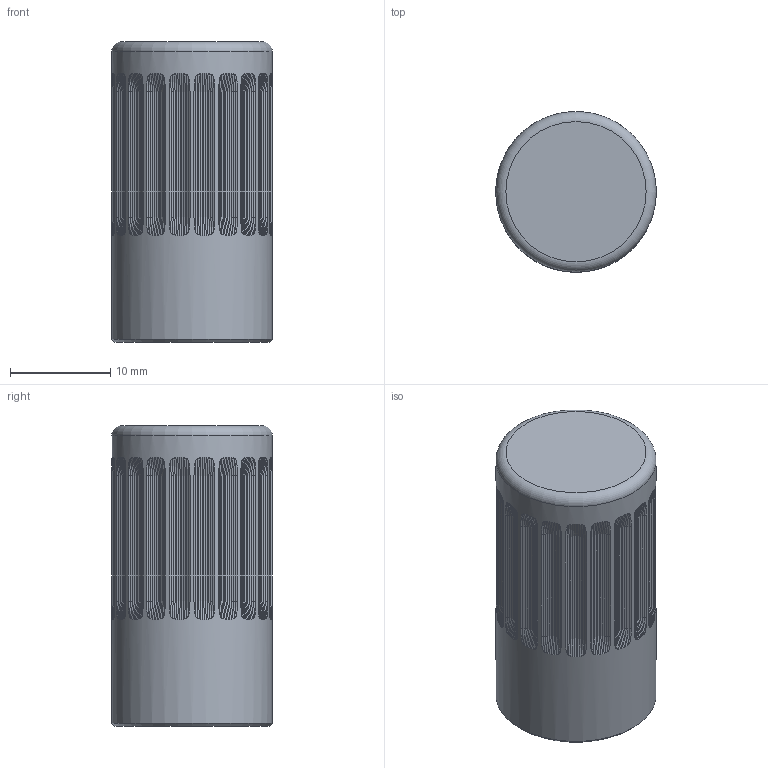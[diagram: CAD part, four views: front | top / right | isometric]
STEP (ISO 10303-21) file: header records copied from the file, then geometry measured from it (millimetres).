
FILE_DESCRIPTION(('Open CASCADE Model'),'2;1');
FILE_NAME('RL-PIN-knob-16','2026-10-19T21:24:17',('Author'),( 'Open CASCADE'),'Open CASCADE STEP processor 8.0','build123d', 'Unknown');
FILE_SCHEMA(('AUTOMOTIVE_DESIGN { 1 0 10303 214 1 1 1 1 }'));
Length unit declared in the file: millimetre
Products named in the file (2): RL-PIN-knob-16; brass_RL-PIN16__k
Assembly tree (1 placements, depth 2):
  RL-PIN-knob-16
    brass_RL-PIN16__k
Bounding box: 16 x 16 x 30 mm (x, y, z)
Volume: 5694.6 mm3; surface area: 2072.3 mm2
Topology: 1 solids, 1 shells, 729 faces, 1673 edges, 968 vertices
Faces by surface type: bspline 480, plane 244, cylinder 3, cone 1, torus 1
Full cylindrical faces by diameter (mm): 3.3 x1, 5.1 x1, 16 x1
Entity records: 49573 total; most frequent: CARTESIAN_POINT 21982, ORIENTED_EDGE 3346, PCURVE 3346, DEFINITIONAL_REPRESENTATION 3346, B_SPLINE_CURVE_WITH_KNOTS 2784, DIRECTION 2746, LINE 2220, VECTOR 2220
